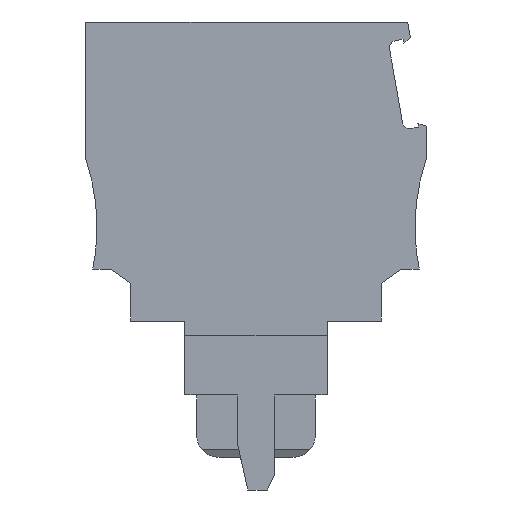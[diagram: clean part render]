
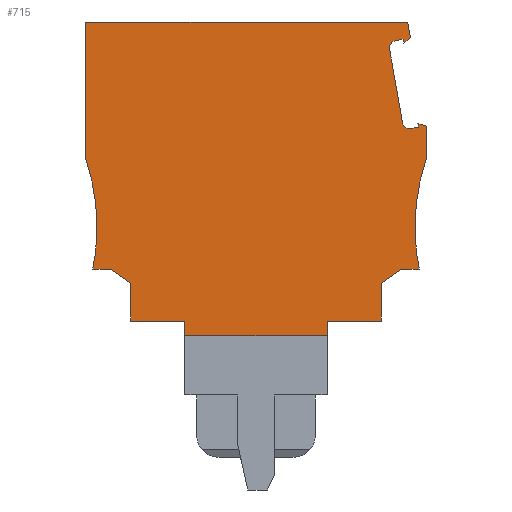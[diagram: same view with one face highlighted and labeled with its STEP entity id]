
A CAD part, left-side view. The second image highlights one B-rep face of the part: STEP entity #715.
In plain terms, the highlighted planar face has unit normal (-1, 0, 0).
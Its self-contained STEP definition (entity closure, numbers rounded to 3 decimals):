
#461=CARTESIAN_POINT('',(0.,17.15,10.95));
#462=VERTEX_POINT('',#461);
#463=CARTESIAN_POINT('',(0.,7.05,10.95));
#464=VERTEX_POINT('',#463);
#465=CARTESIAN_POINT('',(0.,17.15,10.95));
#466=DIRECTION('',(-0.,-1.,0.));
#467=VECTOR('',#466,10.1);
#468=LINE('',#465,#467);
#469=EDGE_CURVE('',#462,#464,#468,.T.);
#487=CARTESIAN_POINT('',(0.,10.259,29.789));
#488=DIRECTION('',(1.,0.,0.));
#489=DIRECTION('',(0.,1.,-0.));
#490=AXIS2_PLACEMENT_3D('',#487,#488,#489);
#491=PLANE('',#490);
#492=ORIENTED_EDGE('',*,*,#469,.T.);
#493=CARTESIAN_POINT('',(0.,7.05,12.));
#494=VERTEX_POINT('',#493);
#495=CARTESIAN_POINT('',(0.,7.05,12.));
#496=DIRECTION('',(-0.,-0.,-1.));
#497=VECTOR('',#496,1.05);
#498=LINE('',#495,#497);
#499=EDGE_CURVE('',#494,#464,#498,.T.);
#500=ORIENTED_EDGE('',*,*,#499,.F.);
#501=CARTESIAN_POINT('',(0.,3.2,12.));
#502=VERTEX_POINT('',#501);
#503=CARTESIAN_POINT('',(0.,7.05,12.));
#504=DIRECTION('',(-0.,-1.,0.));
#505=VECTOR('',#504,3.85);
#506=LINE('',#503,#505);
#507=EDGE_CURVE('',#494,#502,#506,.T.);
#508=ORIENTED_EDGE('',*,*,#507,.T.);
#509=CARTESIAN_POINT('',(-0.,3.2,14.696));
#510=VERTEX_POINT('',#509);
#511=CARTESIAN_POINT('',(0.,3.2,12.));
#512=DIRECTION('',(-0.,0.,1.));
#513=VECTOR('',#512,2.696);
#514=LINE('',#511,#513);
#515=EDGE_CURVE('',#502,#510,#514,.T.);
#516=ORIENTED_EDGE('',*,*,#515,.T.);
#517=CARTESIAN_POINT('',(-0.,1.766,15.7));
#518=VERTEX_POINT('',#517);
#519=CARTESIAN_POINT('',(-0.,1.766,15.7));
#520=DIRECTION('',(0.,0.819,-0.574));
#521=VECTOR('',#520,1.751);
#522=LINE('',#519,#521);
#523=EDGE_CURVE('',#518,#510,#522,.T.);
#524=ORIENTED_EDGE('',*,*,#523,.F.);
#525=CARTESIAN_POINT('',(-0.,0.497,15.7));
#526=VERTEX_POINT('',#525);
#527=CARTESIAN_POINT('',(0.,1.766,15.7));
#528=DIRECTION('',(-0.,-1.,0.));
#529=VECTOR('',#528,1.269);
#530=LINE('',#527,#529);
#531=EDGE_CURVE('',#518,#526,#530,.T.);
#532=ORIENTED_EDGE('',*,*,#531,.T.);
#533=CARTESIAN_POINT('',(-0.,0.8,18.7));
#534=VERTEX_POINT('',#533);
#535=CARTESIAN_POINT('',(-0.,-14.2,18.7));
#536=DIRECTION('',(1.,0.,0.));
#537=DIRECTION('',(0.,1.,-0.));
#538=AXIS2_PLACEMENT_3D('',#535,#536,#537);
#539=CIRCLE('',#538,15.);
#540=EDGE_CURVE('',#526,#534,#539,.T.);
#541=ORIENTED_EDGE('',*,*,#540,.T.);
#542=CARTESIAN_POINT('',(-0.,0.,23.533));
#543=VERTEX_POINT('',#542);
#544=CARTESIAN_POINT('',(-0.,-14.2,18.7));
#545=DIRECTION('',(1.,0.,0.));
#546=DIRECTION('',(0.,1.,-0.));
#547=AXIS2_PLACEMENT_3D('',#544,#545,#546);
#548=CIRCLE('',#547,15.);
#549=EDGE_CURVE('',#534,#543,#548,.T.);
#550=ORIENTED_EDGE('',*,*,#549,.T.);
#551=CARTESIAN_POINT('',(-0.,0.,25.84));
#552=VERTEX_POINT('',#551);
#553=CARTESIAN_POINT('',(-0.,0.,25.84));
#554=DIRECTION('',(0.,0.,-1.));
#555=VECTOR('',#554,2.306);
#556=LINE('',#553,#555);
#557=EDGE_CURVE('',#552,#543,#556,.T.);
#558=ORIENTED_EDGE('',*,*,#557,.F.);
#559=CARTESIAN_POINT('',(0.,0.596,26.057));
#560=VERTEX_POINT('',#559);
#561=CARTESIAN_POINT('',(0.,0.,25.84));
#562=DIRECTION('',(0.,0.94,0.342));
#563=VECTOR('',#562,0.635);
#564=LINE('',#561,#563);
#565=EDGE_CURVE('',#552,#560,#564,.T.);
#566=ORIENTED_EDGE('',*,*,#565,.T.);
#567=CARTESIAN_POINT('',(0.,0.549,25.788));
#568=VERTEX_POINT('',#567);
#569=CARTESIAN_POINT('',(0.,0.596,26.057));
#570=DIRECTION('',(-0.,-0.174,-0.985));
#571=VECTOR('',#570,0.272);
#572=LINE('',#569,#571);
#573=EDGE_CURVE('',#560,#568,#572,.T.);
#574=ORIENTED_EDGE('',*,*,#573,.T.);
#575=CARTESIAN_POINT('',(-0.,1.11,25.689));
#576=VERTEX_POINT('',#575);
#577=CARTESIAN_POINT('',(0.,0.549,25.788));
#578=DIRECTION('',(0.,0.985,-0.174));
#579=VECTOR('',#578,0.57);
#580=LINE('',#577,#579);
#581=EDGE_CURVE('',#568,#576,#580,.T.);
#582=ORIENTED_EDGE('',*,*,#581,.T.);
#583=CARTESIAN_POINT('',(-0.,1.69,26.095));
#584=VERTEX_POINT('',#583);
#585=CARTESIAN_POINT('',(-0.,1.197,26.182));
#586=DIRECTION('',(1.,0.,-0.));
#587=DIRECTION('',(-0.,1.,-0.));
#588=AXIS2_PLACEMENT_3D('',#585,#586,#587);
#589=CIRCLE('',#588,0.5);
#590=EDGE_CURVE('',#576,#584,#589,.T.);
#591=ORIENTED_EDGE('',*,*,#590,.T.);
#592=CARTESIAN_POINT('',(-0.,2.614,31.339));
#593=VERTEX_POINT('',#592);
#594=CARTESIAN_POINT('',(-0.,1.69,26.095));
#595=DIRECTION('',(0.,0.174,0.985));
#596=VECTOR('',#595,5.325);
#597=LINE('',#594,#596);
#598=EDGE_CURVE('',#584,#593,#597,.T.);
#599=ORIENTED_EDGE('',*,*,#598,.T.);
#600=CARTESIAN_POINT('',(-0.,2.209,31.918));
#601=VERTEX_POINT('',#600);
#602=CARTESIAN_POINT('',(-0.,2.122,31.426));
#603=DIRECTION('',(-1.,0.,0.));
#604=DIRECTION('',(0.,-1.,0.));
#605=AXIS2_PLACEMENT_3D('',#602,#603,#604);
#606=CIRCLE('',#605,0.5);
#607=EDGE_CURVE('',#601,#593,#606,.T.);
#608=ORIENTED_EDGE('',*,*,#607,.F.);
#609=CARTESIAN_POINT('',(0.,1.647,32.017));
#610=VERTEX_POINT('',#609);
#611=CARTESIAN_POINT('',(-0.,2.209,31.918));
#612=DIRECTION('',(-0.,-0.985,0.174));
#613=VECTOR('',#612,0.57);
#614=LINE('',#611,#613);
#615=EDGE_CURVE('',#601,#610,#614,.T.);
#616=ORIENTED_EDGE('',*,*,#615,.T.);
#617=CARTESIAN_POINT('',(0.,1.6,31.749));
#618=VERTEX_POINT('',#617);
#619=CARTESIAN_POINT('',(0.,1.647,32.017));
#620=DIRECTION('',(-0.,-0.174,-0.985));
#621=VECTOR('',#620,0.272);
#622=LINE('',#619,#621);
#623=EDGE_CURVE('',#610,#618,#622,.T.);
#624=ORIENTED_EDGE('',*,*,#623,.T.);
#625=CARTESIAN_POINT('',(-0.,1.131,32.143));
#626=VERTEX_POINT('',#625);
#627=CARTESIAN_POINT('',(-0.,1.6,31.749));
#628=DIRECTION('',(-0.,-0.766,0.643));
#629=VECTOR('',#628,0.612);
#630=LINE('',#627,#629);
#631=EDGE_CURVE('',#618,#626,#630,.T.);
#632=ORIENTED_EDGE('',*,*,#631,.T.);
#633=CARTESIAN_POINT('',(-0.,1.327,33.25));
#634=VERTEX_POINT('',#633);
#635=CARTESIAN_POINT('',(-0.,1.327,33.25));
#636=DIRECTION('',(0.,-0.174,-0.985));
#637=VECTOR('',#636,1.125);
#638=LINE('',#635,#637);
#639=EDGE_CURVE('',#634,#626,#638,.T.);
#640=ORIENTED_EDGE('',*,*,#639,.F.);
#641=CARTESIAN_POINT('',(-0.,24.2,33.25));
#642=VERTEX_POINT('',#641);
#643=CARTESIAN_POINT('',(-0.,24.2,33.25));
#644=DIRECTION('',(-0.,-1.,0.));
#645=VECTOR('',#644,22.873);
#646=LINE('',#643,#645);
#647=EDGE_CURVE('',#642,#634,#646,.T.);
#648=ORIENTED_EDGE('',*,*,#647,.F.);
#649=CARTESIAN_POINT('',(-0.,24.2,23.533));
#650=VERTEX_POINT('',#649);
#651=CARTESIAN_POINT('',(-0.,24.2,23.533));
#652=DIRECTION('',(-0.,0.,1.));
#653=VECTOR('',#652,9.717);
#654=LINE('',#651,#653);
#655=EDGE_CURVE('',#650,#642,#654,.T.);
#656=ORIENTED_EDGE('',*,*,#655,.F.);
#657=CARTESIAN_POINT('',(0.,23.4,18.7));
#658=VERTEX_POINT('',#657);
#659=CARTESIAN_POINT('',(0.,38.4,18.7));
#660=DIRECTION('',(-1.,0.,-0.));
#661=DIRECTION('',(-0.,-1.,0.));
#662=AXIS2_PLACEMENT_3D('',#659,#660,#661);
#663=CIRCLE('',#662,15.);
#664=EDGE_CURVE('',#658,#650,#663,.T.);
#665=ORIENTED_EDGE('',*,*,#664,.F.);
#666=CARTESIAN_POINT('',(-0.,23.703,15.7));
#667=VERTEX_POINT('',#666);
#668=CARTESIAN_POINT('',(0.,38.4,18.7));
#669=DIRECTION('',(-1.,0.,-0.));
#670=DIRECTION('',(-0.,-1.,0.));
#671=AXIS2_PLACEMENT_3D('',#668,#669,#670);
#672=CIRCLE('',#671,15.);
#673=EDGE_CURVE('',#667,#658,#672,.T.);
#674=ORIENTED_EDGE('',*,*,#673,.F.);
#675=CARTESIAN_POINT('',(-0.,22.434,15.7));
#676=VERTEX_POINT('',#675);
#677=CARTESIAN_POINT('',(-0.,22.434,15.7));
#678=DIRECTION('',(-0.,1.,-0.));
#679=VECTOR('',#678,1.269);
#680=LINE('',#677,#679);
#681=EDGE_CURVE('',#676,#667,#680,.T.);
#682=ORIENTED_EDGE('',*,*,#681,.F.);
#683=CARTESIAN_POINT('',(-0.,21.,14.696));
#684=VERTEX_POINT('',#683);
#685=CARTESIAN_POINT('',(0.,22.434,15.7));
#686=DIRECTION('',(-0.,-0.819,-0.574));
#687=VECTOR('',#686,1.751);
#688=LINE('',#685,#687);
#689=EDGE_CURVE('',#676,#684,#688,.T.);
#690=ORIENTED_EDGE('',*,*,#689,.T.);
#691=CARTESIAN_POINT('',(-0.,21.,12.));
#692=VERTEX_POINT('',#691);
#693=CARTESIAN_POINT('',(-0.,21.,12.));
#694=DIRECTION('',(-0.,0.,1.));
#695=VECTOR('',#694,2.696);
#696=LINE('',#693,#695);
#697=EDGE_CURVE('',#692,#684,#696,.T.);
#698=ORIENTED_EDGE('',*,*,#697,.F.);
#699=CARTESIAN_POINT('',(-0.,17.15,12.));
#700=VERTEX_POINT('',#699);
#701=CARTESIAN_POINT('',(-0.,17.15,12.));
#702=DIRECTION('',(-0.,1.,-0.));
#703=VECTOR('',#702,3.85);
#704=LINE('',#701,#703);
#705=EDGE_CURVE('',#700,#692,#704,.T.);
#706=ORIENTED_EDGE('',*,*,#705,.F.);
#707=CARTESIAN_POINT('',(0.,17.15,12.));
#708=DIRECTION('',(0.,-0.,-1.));
#709=VECTOR('',#708,1.05);
#710=LINE('',#707,#709);
#711=EDGE_CURVE('',#700,#462,#710,.T.);
#712=ORIENTED_EDGE('',*,*,#711,.T.);
#713=EDGE_LOOP('',(#492,#500,#508,#516,#524,#532,#541,#550,#558,#566,#574,#582,#591,#599,#608,#616,#624,#632,#640,#648,#656,#665,#674,#682,#690,#698,
#706,#712));
#714=FACE_BOUND('',#713,.T.);
#715=ADVANCED_FACE('',(#714),#491,.F.);
